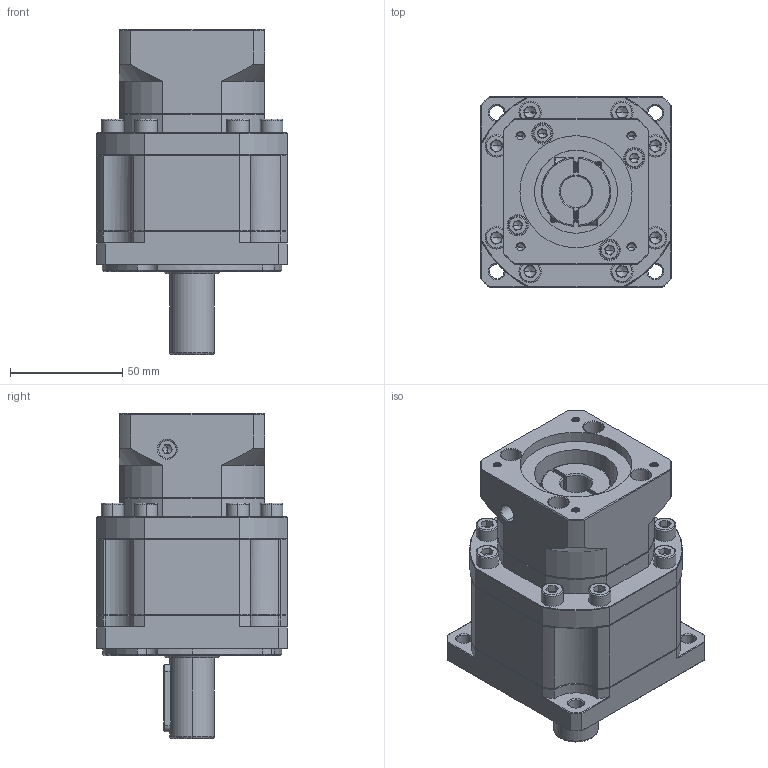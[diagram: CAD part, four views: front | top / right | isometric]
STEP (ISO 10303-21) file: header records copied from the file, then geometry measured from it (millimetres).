
FILE_DESCRIPTION (( 'STEP AP214' ), '1' );
FILE_NAME ('ZB90-D20-L2-14-50-70-M4.STEP', '2022-05-02T15:21:34', ( '' ), ( 'Microsoft' ), 'SwSTEP 2.0', 'SolidWorks 2016', '' );
FILE_SCHEMA (( 'AUTOMOTIVE_DESIGN' ));
Length unit declared in the file: millimetre
Products named in the file (1): ZB90-D20-L2-14-50-70-M4
Bounding box: 85 x 85 x 145 mm (x, y, z)
Volume: 542665.7 mm3; surface area: 76206.2 mm2
Topology: 6 solids, 6 shells, 2071 faces, 5428 edges, 3448 vertices
Faces by surface type: plane 1005, cylinder 394, bspline 328, cone 322, torus 22
Entity records: 107149 total; most frequent: CARTESIAN_POINT 36025, ORIENTED_EDGE 10764, DIRECTION 8906, EDGE_CURVE 5382, VERTEX_POINT 3448, LINE 3302, VECTOR 3302, AXIS2_PLACEMENT_3D 2802
